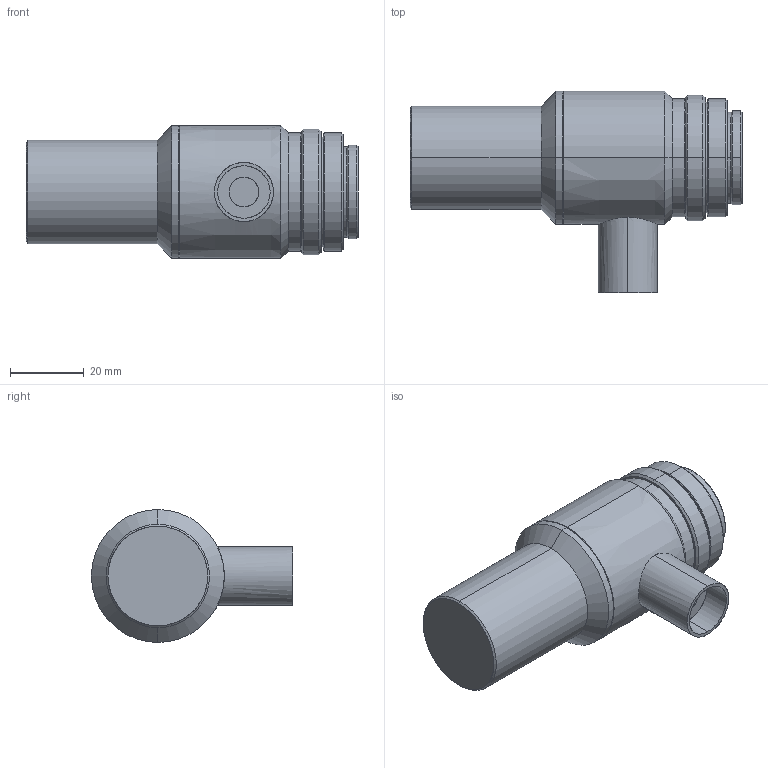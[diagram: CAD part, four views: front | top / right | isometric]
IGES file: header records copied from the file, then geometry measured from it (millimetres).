
Start section: SolidWorks IGES file using analytic representation for surfaces
Bounding box: 89.9 x 54.5 x 36 mm (x, y, z)
Surface area: 12409.1 mm2 (no closed solid volume)
Topology: 0 solids, 0 shells, 59 faces, 978 edges, 978 vertices
Faces by surface type: revolution 50, bspline 9
